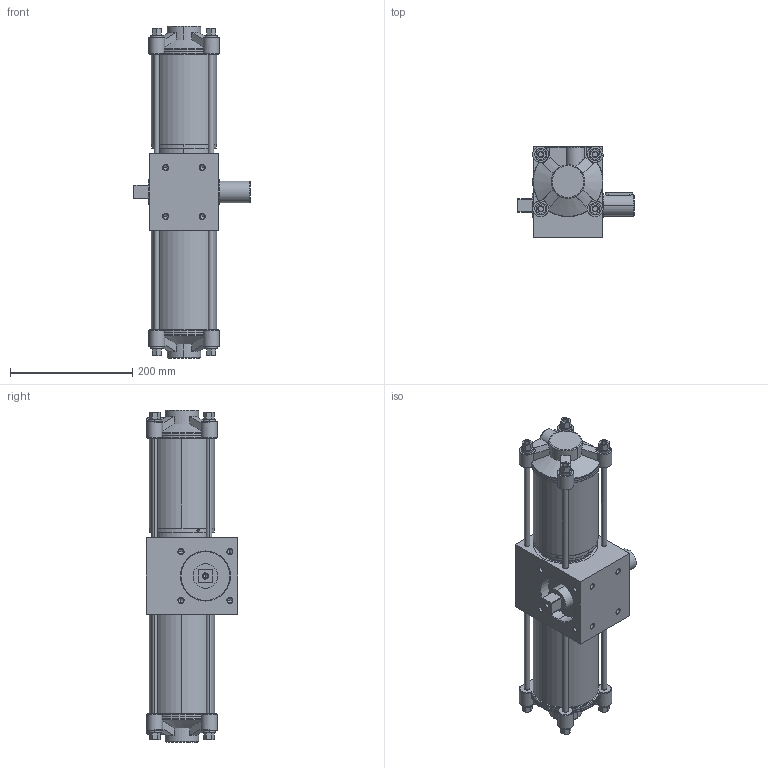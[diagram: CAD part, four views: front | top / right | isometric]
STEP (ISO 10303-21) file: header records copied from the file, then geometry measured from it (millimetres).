
FILE_DESCRIPTION((''),'2;1');
FILE_NAME('0822935228_ASM','2015-04-14T',('mla1hc'),(''),'PRO/ENGINEER BY PARAMETRIC TECHNOLOGY CORPORATION, 2011490','PRO/ENGINEER BY PARAMETRIC TECHNOLOGY CORPORATION, 2011490','');
FILE_SCHEMA(('AUTOMOTIVE_DESIGN_CC2 { 1 2 10303 214 -1 1 5 2 }'));
Length unit declared in the file: millimetre
Products named in the file (4): 0822935228-A; SG-TRR-100-B; SG-TRR-100-C; 0822935228_ASM
Assembly tree (3 placements, depth 2):
  0822935228_ASM
    0822935228-A
    SG-TRR-100-B
    SG-TRR-100-C
Bounding box: 190 x 150 x 543.2 mm (x, y, z)
Volume: 3180406.2 mm3; surface area: 474382.3 mm2
Topology: 3 solids, 3 shells, 494 faces, 1215 edges, 763 vertices
Faces by surface type: plane 178, cylinder 178, cone 128, torus 10
Entity records: 19623 total; most frequent: CARTESIAN_POINT 4059, DIRECTION 2539, ORIENTED_EDGE 2362, EDGE_CURVE 1181, AXIS2_PLACEMENT_3D 975, PRESENTATION_STYLE_ASSIGNMENT 912, STYLED_ITEM 798, CURVE_STYLE 796
